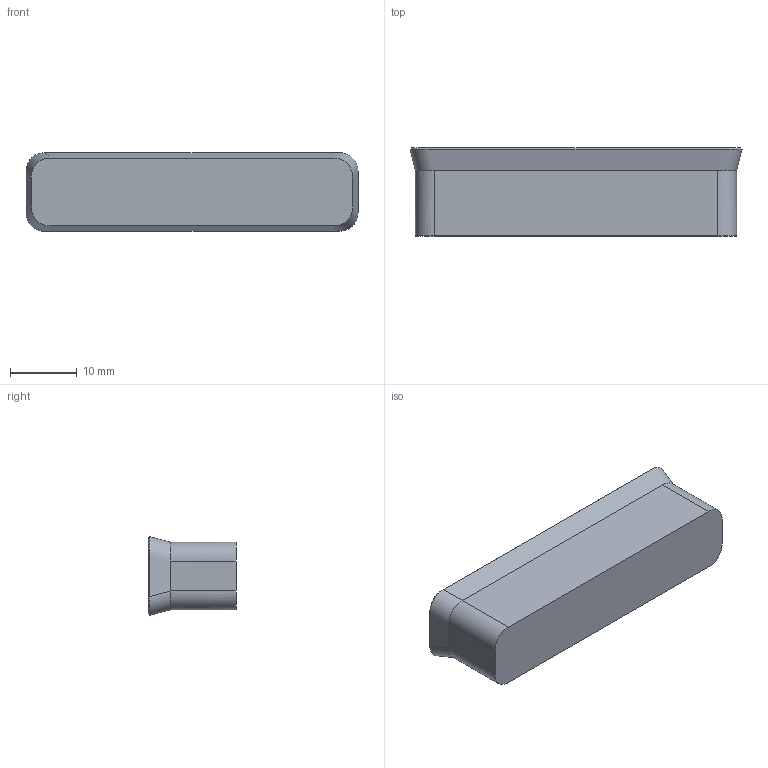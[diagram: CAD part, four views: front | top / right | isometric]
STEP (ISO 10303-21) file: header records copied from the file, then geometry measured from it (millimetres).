
FILE_DESCRIPTION (( 'STEP AP203' ), '1' );
FILE_NAME ('Name_blank.STEP', '2023-10-12T08:15:24', ( '' ), ( '' ), 'SwSTEP 2.0', 'SolidWorks 2023', '' );
FILE_SCHEMA (( 'CONFIG_CONTROL_DESIGN' ));
Length unit declared in the file: millimetre
Products named in the file (1): Name_blank
Bounding box: 49.8 x 13.2 x 11.8 mm (x, y, z)
Volume: 6385.4 mm3; surface area: 2596.4 mm2
Topology: 1 solids, 1 shells, 29 faces, 74 edges, 48 vertices
Faces by surface type: plane 15, bspline 14
Entity records: 2445 total; most frequent: CARTESIAN_POINT 1778, ORIENTED_EDGE 148, EDGE_CURVE 74, DIRECTION 70, VERTEX_POINT 48, VECTOR 38, LINE 38, B_SPLINE_CURVE_WITH_KNOTS 36
